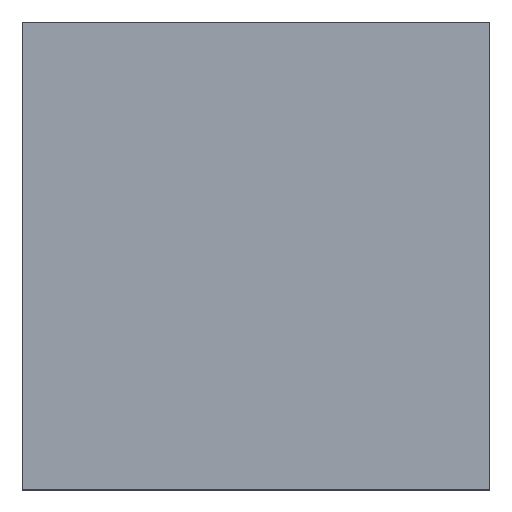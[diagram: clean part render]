
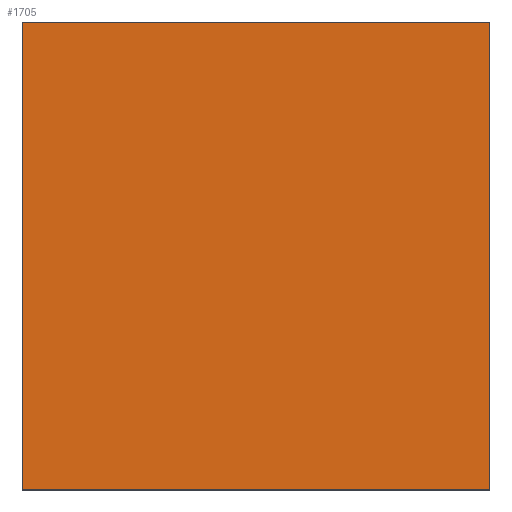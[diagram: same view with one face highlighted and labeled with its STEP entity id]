
A CAD part, top view. The second image highlights one B-rep face of the part: STEP entity #1705.
In plain terms, the highlighted planar face has unit normal (0, 0, 1).
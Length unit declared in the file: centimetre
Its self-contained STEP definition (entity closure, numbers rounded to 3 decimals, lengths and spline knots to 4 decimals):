
#78 = DIRECTION ( 'NONE',  ( -1., 0., 0. ) ) ;
#130 = CARTESIAN_POINT ( 'NONE',  ( 1000., 0., 1000. ) ) ;
#173 = CARTESIAN_POINT ( 'NONE',  ( 0., 0., 1000. ) ) ;
#187 = FACE_OUTER_BOUND ( 'NONE', #2133, .T. ) ;
#257 = EDGE_CURVE ( 'NONE', #1555, #1548, #549, .T. ) ;
#279 = ORIENTED_EDGE ( 'NONE', *, *, #1200, .T. ) ;
#286 = ORIENTED_EDGE ( 'NONE', *, *, #257, .T. ) ;
#410 = ORIENTED_EDGE ( 'NONE', *, *, #675, .T. ) ;
#508 = EDGE_CURVE ( 'NONE', #1942, #1555, #947, .T. ) ;
#509 = LINE ( 'NONE', #2301, #1191 ) ;
#521 = AXIS2_PLACEMENT_3D ( 'NONE', #1822, #1274, #1810 ) ;
#549 = LINE ( 'NONE', #173, #1227 ) ;
#649 = LINE ( 'NONE', #1355, #670 ) ;
#670 = VECTOR ( 'NONE', #78, 100. ) ;
#675 = EDGE_CURVE ( 'NONE', #2099, #1942, #649, .T. ) ;
#691 = CARTESIAN_POINT ( 'NONE',  ( 1000., 1000., 1000. ) ) ;
#813 = CARTESIAN_POINT ( 'NONE',  ( 0., 1000., 1000. ) ) ;
#947 = LINE ( 'NONE', #1137, #1753 ) ;
#1137 = CARTESIAN_POINT ( 'NONE',  ( 0., 1000., 1000. ) ) ;
#1191 = VECTOR ( 'NONE', #1939, 100. ) ;
#1200 = EDGE_CURVE ( 'NONE', #1548, #2099, #509, .T. ) ;
#1227 = VECTOR ( 'NONE', #1431, 100. ) ;
#1250 = ORIENTED_EDGE ( 'NONE', *, *, #508, .T. ) ;
#1274 = DIRECTION ( 'NONE',  ( 0., 0., 1. ) ) ;
#1355 = CARTESIAN_POINT ( 'NONE',  ( 0., 1000., 1000. ) ) ;
#1431 = DIRECTION ( 'NONE',  ( 1., 0., 0. ) ) ;
#1548 = VERTEX_POINT ( 'NONE', #130 ) ;
#1555 = VERTEX_POINT ( 'NONE', #1912 ) ;
#1705 = ADVANCED_FACE ( 'NONE', ( #187 ), #2154, .T. ) ;
#1753 = VECTOR ( 'NONE', #1854, 100. ) ;
#1810 = DIRECTION ( 'NONE',  ( 1., 0., 0. ) ) ;
#1822 = CARTESIAN_POINT ( 'NONE',  ( 0., 0., 1000. ) ) ;
#1854 = DIRECTION ( 'NONE',  ( 0., -1., 0. ) ) ;
#1912 = CARTESIAN_POINT ( 'NONE',  ( 0., 0., 1000. ) ) ;
#1939 = DIRECTION ( 'NONE',  ( 0., 1., 0. ) ) ;
#1942 = VERTEX_POINT ( 'NONE', #813 ) ;
#2099 = VERTEX_POINT ( 'NONE', #691 ) ;
#2133 = EDGE_LOOP ( 'NONE', ( #1250, #286, #279, #410 ) ) ;
#2154 = PLANE ( 'NONE',  #521 ) ;
#2301 = CARTESIAN_POINT ( 'NONE',  ( 1000., 1000., 1000. ) ) ;
